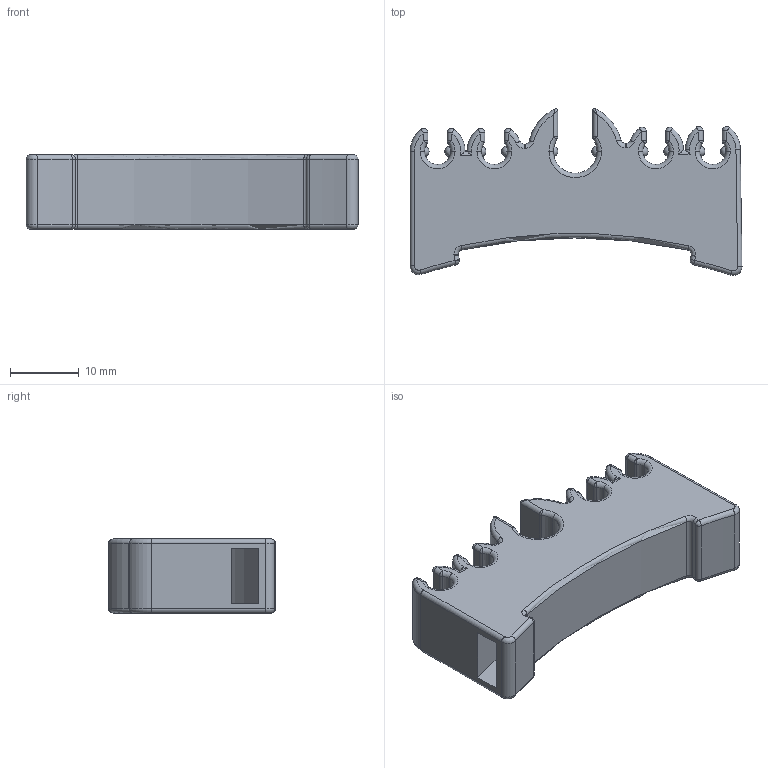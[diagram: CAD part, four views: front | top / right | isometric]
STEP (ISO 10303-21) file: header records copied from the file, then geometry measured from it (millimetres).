
FILE_DESCRIPTION (( 'STEP AP203' ), '1' );
FILE_NAME ('5012560_REV-A - 4X 0.156 + 1X 0.25 TUBING MOUNTING CLIP.STEP', '2026-08-27T16:29:03', ( '' ), ( '' ), 'SwSTEP 2.0', 'SolidWorks 2019', '' );
FILE_SCHEMA (( 'CONFIG_CONTROL_DESIGN' ));
Length unit declared in the file: inch
Products named in the file (1): 5012560_REV-A - 4X 0.156 + 1X 0.25 TUBING MOUNTING CLIP
Bounding box: 48.2 x 24.2 x 10.79 mm (x, y, z)
Volume: 6603.9 mm3; surface area: 4757.2 mm2
Topology: 1 solids, 1 shells, 263 faces, 641 edges, 346 vertices
Faces by surface type: cylinder 97, torus 80, sphere 60, plane 22, bspline 4
Entity records: 7784 total; most frequent: CARTESIAN_POINT 1791, DIRECTION 1407, ORIENTED_EDGE 1170, AXIS2_PLACEMENT_3D 620, EDGE_CURVE 585, CIRCLE 360, VERTEX_POINT 324, EDGE_LOOP 265
